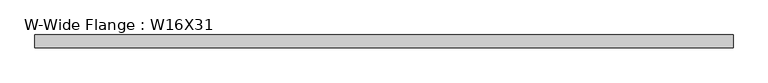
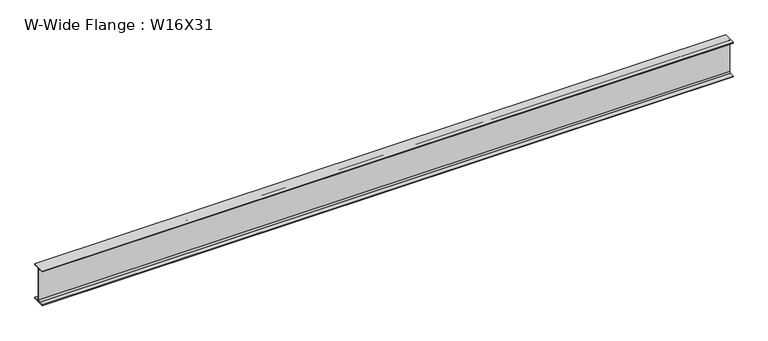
"""IFC4 building model written with IfcOpenShell, lengths in millimetres: beam geometry, W-Wide Flange : W16X31."""

from ifc_helpers import new_model, si_unit, point, frame, frame_2d, origin, place, context, project, spatial, polyline, circle_curve, trimmed, segment, composite_curve, outline, extrude, source, transform, mapped, element, save


def w_wide_flange_w16x31_38a080ee(model_context):
    return source(origin(), model_context, "Body", "SweptSolid", [
        extrude(outline(composite_curve([segment(polyline([(70.231, -190.754), (70.231, -201.93), (-70.231, -201.93), (-70.231, -190.754), (-20.8915, -190.754)]), True, "CONTINUOUS"), segment(trimmed(circle_curve(frame_2d((-20.8915, -173.355)), 17.399), [point((-20.8915, -190.754))], [point((-3.4925, -173.355))], True, "CARTESIAN"), True, "CONTINUOUS"), segment(polyline([(-3.4925, -173.355), (-3.4925, 173.355)]), True, "CONTINUOUS"), segment(trimmed(circle_curve(frame_2d((-20.8915, 173.355)), 17.399), [point((-3.4925, 173.355))], [point((-20.8915, 190.754))], True, "CARTESIAN"), True, "CONTINUOUS"), segment(polyline([(-20.8915, 190.754), (-70.231, 190.754), (-70.231, 201.93), (70.231, 201.93), (70.231, 190.754), (20.8915, 190.754)]), True, "CONTINUOUS"), segment(trimmed(circle_curve(frame_2d((20.8915, 173.355)), 17.399), [point((20.8915, 190.754))], [point((3.4925, 173.355))], True, "CARTESIAN"), True, "CONTINUOUS"), segment(polyline([(3.4925, 173.355), (3.4925, -173.355)]), True, "CONTINUOUS"), segment(trimmed(circle_curve(frame_2d((20.8915, -173.355)), 17.399), [point((3.4925, -173.355))], [point((20.8915, -190.754))], True, "CARTESIAN"), True, "CONTINUOUS"), segment(polyline([(20.8915, -190.754), (70.231, -190.754)]), True, "CONTINUOUS")], self_intersect=False)), frame((-3327.9569503, 0.0, 0.0), z_axis=(1.0, 0.0, 0.0), x_axis=(0.0, 1.0, 0.0)), (0.0, 0.0, 1.0), 7592.2383335),
    ])


if __name__ == "__main__":
    model = new_model("IFC4")
    model_context = context("Model", 3, world=origin())
    ifc_project = project(units=[si_unit("LENGTHUNIT", "METRE", prefix="MILLI")], contexts=[model_context])
    site = spatial("IfcSite", under=ifc_project)
    building = spatial("IfcBuilding", under=site)
    placement = place(None, origin())
    w_wide_flange_w16x31_shape = w_wide_flange_w16x31_38a080ee(model_context)
    element("IfcBeam", 1, ObjectType="W-Wide Flange : W16X31", at=placement, inside=building, context=model_context, shape_type="MappedRepresentation", body=[
        mapped(w_wide_flange_w16x31_shape, transform((0.0, 0.0, 0.0), x_axis=(1.0, 0.0, 0.0), y_axis=(0.0, 1.0, 0.0), z_axis=(0.0, 0.0, 1.0))),
    ])
    save(model, "model.ifc")
